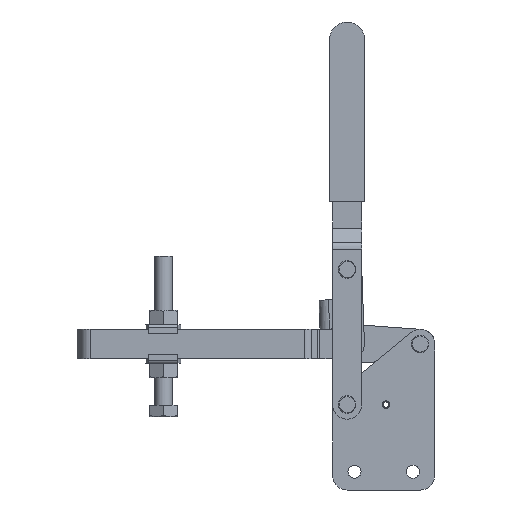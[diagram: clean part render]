
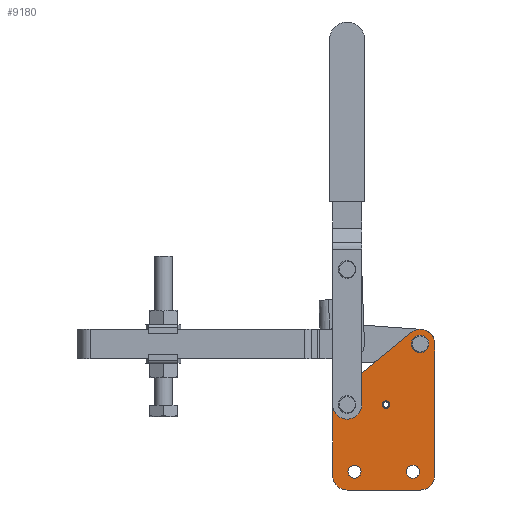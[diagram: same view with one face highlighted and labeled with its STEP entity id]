
A CAD part, front view. The second image highlights one B-rep face of the part: STEP entity #9180.
In plain terms, the highlighted planar face has unit normal (0, -1, 0).
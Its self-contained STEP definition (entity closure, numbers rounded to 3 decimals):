
#9019=CARTESIAN_POINT('Axis2P3D Location',(0.,12.5,0.)) ;
#9024=CARTESIAN_POINT('Line Origine',(-15.,12.5,4.252)) ;
#9028=CARTESIAN_POINT('Cartesian Point',(-15.,12.5,-20.)) ;
#9030=CARTESIAN_POINT('Cartesian Point',(-15.,12.5,28.504)) ;
#9033=CARTESIAN_POINT('Axis2P3D Location',(-5.,12.5,-20.)) ;
#9037=CARTESIAN_POINT('Cartesian Point',(-5.,12.5,-30.)) ;
#9040=CARTESIAN_POINT('Line Origine',(20.,12.5,-30.)) ;
#9044=CARTESIAN_POINT('Cartesian Point',(45.,12.5,-30.)) ;
#9047=CARTESIAN_POINT('Axis2P3D Location',(45.,12.5,-20.)) ;
#9051=CARTESIAN_POINT('Cartesian Point',(55.,12.5,-20.)) ;
#9054=CARTESIAN_POINT('Line Origine',(55.,12.5,25.)) ;
#9058=CARTESIAN_POINT('Cartesian Point',(55.,12.5,70.)) ;
#9061=CARTESIAN_POINT('Axis2P3D Location',(45.,12.5,70.)) ;
#9065=CARTESIAN_POINT('Cartesian Point',(38.614,12.5,77.695)) ;
#9068=CARTESIAN_POINT('Line Origine',(13.614,12.5,56.947)) ;
#9072=CARTESIAN_POINT('Cartesian Point',(-11.386,12.5,36.199)) ;
#9075=CARTESIAN_POINT('Axis2P3D Location',(-5.,12.5,28.504)) ;
#9090=CARTESIAN_POINT('Axis2P3D Location',(-5.,12.5,28.5)) ;
#9094=CARTESIAN_POINT('Cartesian Point',(0.,12.5,28.5)) ;
#9096=CARTESIAN_POINT('Cartesian Point',(-10.,12.5,28.5)) ;
#9099=CARTESIAN_POINT('Axis2P3D Location',(-5.,12.5,28.5)) ;
#9108=CARTESIAN_POINT('Axis2P3D Location',(45.,12.5,70.)) ;
#9112=CARTESIAN_POINT('Cartesian Point',(49.,12.5,70.)) ;
#9114=CARTESIAN_POINT('Cartesian Point',(41.,12.5,70.)) ;
#9117=CARTESIAN_POINT('Axis2P3D Location',(45.,12.5,70.)) ;
#9126=CARTESIAN_POINT('Axis2P3D Location',(21.5,12.5,28.5)) ;
#9130=CARTESIAN_POINT('Cartesian Point',(24.,12.5,28.5)) ;
#9132=CARTESIAN_POINT('Cartesian Point',(19.,12.5,28.5)) ;
#9135=CARTESIAN_POINT('Axis2P3D Location',(21.5,12.5,28.5)) ;
#9144=CARTESIAN_POINT('Axis2P3D Location',(40.,12.5,-17.5)) ;
#9148=CARTESIAN_POINT('Cartesian Point',(44.5,12.5,-17.5)) ;
#9150=CARTESIAN_POINT('Cartesian Point',(35.5,12.5,-17.5)) ;
#9153=CARTESIAN_POINT('Axis2P3D Location',(40.,12.5,-17.5)) ;
#9162=CARTESIAN_POINT('Axis2P3D Location',(0.,12.5,-17.5)) ;
#9166=CARTESIAN_POINT('Cartesian Point',(4.5,12.5,-17.5)) ;
#9168=CARTESIAN_POINT('Cartesian Point',(-4.5,12.5,-17.5)) ;
#9171=CARTESIAN_POINT('Axis2P3D Location',(0.,12.5,-17.5)) ;
#9020=DIRECTION('Axis2P3D Direction',(0.,1.,0.)) ;
#9021=DIRECTION('Axis2P3D XDirection',(1.,0.,0.)) ;
#9025=DIRECTION('Vector Direction',(0.,0.,1.)) ;
#9034=DIRECTION('Axis2P3D Direction',(0.,1.,0.)) ;
#9041=DIRECTION('Vector Direction',(1.,0.,0.)) ;
#9048=DIRECTION('Axis2P3D Direction',(0.,1.,0.)) ;
#9055=DIRECTION('Vector Direction',(0.,0.,1.)) ;
#9062=DIRECTION('Axis2P3D Direction',(0.,1.,0.)) ;
#9069=DIRECTION('Vector Direction',(-0.77,0.,-0.639)) ;
#9076=DIRECTION('Axis2P3D Direction',(0.,1.,0.)) ;
#9091=DIRECTION('Axis2P3D Direction',(0.,1.,0.)) ;
#9100=DIRECTION('Axis2P3D Direction',(0.,1.,0.)) ;
#9109=DIRECTION('Axis2P3D Direction',(0.,1.,0.)) ;
#9118=DIRECTION('Axis2P3D Direction',(0.,1.,0.)) ;
#9127=DIRECTION('Axis2P3D Direction',(0.,1.,0.)) ;
#9136=DIRECTION('Axis2P3D Direction',(0.,1.,0.)) ;
#9145=DIRECTION('Axis2P3D Direction',(0.,1.,0.)) ;
#9154=DIRECTION('Axis2P3D Direction',(0.,1.,0.)) ;
#9163=DIRECTION('Axis2P3D Direction',(0.,1.,0.)) ;
#9172=DIRECTION('Axis2P3D Direction',(0.,1.,0.)) ;
#9022=AXIS2_PLACEMENT_3D('Plane Axis2P3D',#9019,#9020,#9021) ;
#9035=AXIS2_PLACEMENT_3D('Circle Axis2P3D',#9033,#9034,$) ;
#9049=AXIS2_PLACEMENT_3D('Circle Axis2P3D',#9047,#9048,$) ;
#9063=AXIS2_PLACEMENT_3D('Circle Axis2P3D',#9061,#9062,$) ;
#9077=AXIS2_PLACEMENT_3D('Circle Axis2P3D',#9075,#9076,$) ;
#9092=AXIS2_PLACEMENT_3D('Circle Axis2P3D',#9090,#9091,$) ;
#9101=AXIS2_PLACEMENT_3D('Circle Axis2P3D',#9099,#9100,$) ;
#9110=AXIS2_PLACEMENT_3D('Circle Axis2P3D',#9108,#9109,$) ;
#9119=AXIS2_PLACEMENT_3D('Circle Axis2P3D',#9117,#9118,$) ;
#9128=AXIS2_PLACEMENT_3D('Circle Axis2P3D',#9126,#9127,$) ;
#9137=AXIS2_PLACEMENT_3D('Circle Axis2P3D',#9135,#9136,$) ;
#9146=AXIS2_PLACEMENT_3D('Circle Axis2P3D',#9144,#9145,$) ;
#9155=AXIS2_PLACEMENT_3D('Circle Axis2P3D',#9153,#9154,$) ;
#9164=AXIS2_PLACEMENT_3D('Circle Axis2P3D',#9162,#9163,$) ;
#9173=AXIS2_PLACEMENT_3D('Circle Axis2P3D',#9171,#9172,$) ;
#9081=ORIENTED_EDGE('Oriented Edge',*,*,#9032,.F.) ;
#9082=ORIENTED_EDGE('Oriented Edge',*,*,#9039,.T.) ;
#9083=ORIENTED_EDGE('Oriented Edge',*,*,#9046,.T.) ;
#9084=ORIENTED_EDGE('Oriented Edge',*,*,#9053,.T.) ;
#9085=ORIENTED_EDGE('Oriented Edge',*,*,#9060,.T.) ;
#9086=ORIENTED_EDGE('Oriented Edge',*,*,#9067,.T.) ;
#9087=ORIENTED_EDGE('Oriented Edge',*,*,#9074,.T.) ;
#9088=ORIENTED_EDGE('Oriented Edge',*,*,#9079,.T.) ;
#9105=ORIENTED_EDGE('Oriented Edge',*,*,#9098,.F.) ;
#9106=ORIENTED_EDGE('Oriented Edge',*,*,#9103,.F.) ;
#9123=ORIENTED_EDGE('Oriented Edge',*,*,#9116,.F.) ;
#9124=ORIENTED_EDGE('Oriented Edge',*,*,#9121,.F.) ;
#9141=ORIENTED_EDGE('Oriented Edge',*,*,#9134,.F.) ;
#9142=ORIENTED_EDGE('Oriented Edge',*,*,#9139,.F.) ;
#9159=ORIENTED_EDGE('Oriented Edge',*,*,#9152,.F.) ;
#9160=ORIENTED_EDGE('Oriented Edge',*,*,#9157,.F.) ;
#9177=ORIENTED_EDGE('Oriented Edge',*,*,#9170,.F.) ;
#9178=ORIENTED_EDGE('Oriented Edge',*,*,#9175,.F.) ;
#9107=FACE_BOUND('Face Bound',#9104,.T.) ;
#9125=FACE_BOUND('Face Bound',#9122,.T.) ;
#9143=FACE_BOUND('Face Bound',#9140,.T.) ;
#9161=FACE_BOUND('Face Bound',#9158,.T.) ;
#9179=FACE_BOUND('Face Bound',#9176,.T.) ;
#9026=VECTOR('Line Direction',#9025,1.) ;
#9042=VECTOR('Line Direction',#9041,1.) ;
#9056=VECTOR('Line Direction',#9055,1.) ;
#9070=VECTOR('Line Direction',#9069,1.) ;
#9180=ADVANCED_FACE('',(#9089,#9107,#9125,#9143,#9161,#9179),#9023,.F.) ;
#9036=CIRCLE('generated circle',#9035,10.) ;
#9050=CIRCLE('generated circle',#9049,10.) ;
#9064=CIRCLE('generated circle',#9063,10.) ;
#9078=CIRCLE('generated circle',#9077,10.) ;
#9093=CIRCLE('generated circle',#9092,5.) ;
#9102=CIRCLE('generated circle',#9101,5.) ;
#9111=CIRCLE('generated circle',#9110,4.) ;
#9120=CIRCLE('generated circle',#9119,4.) ;
#9129=CIRCLE('generated circle',#9128,2.5) ;
#9138=CIRCLE('generated circle',#9137,2.5) ;
#9147=CIRCLE('generated circle',#9146,4.5) ;
#9156=CIRCLE('generated circle',#9155,4.5) ;
#9165=CIRCLE('generated circle',#9164,4.5) ;
#9174=CIRCLE('generated circle',#9173,4.5) ;
#9032=EDGE_CURVE('',#9029,#9031,#9027,.T.) ;
#9039=EDGE_CURVE('',#9029,#9038,#9036,.F.) ;
#9046=EDGE_CURVE('',#9038,#9045,#9043,.T.) ;
#9053=EDGE_CURVE('',#9045,#9052,#9050,.F.) ;
#9060=EDGE_CURVE('',#9052,#9059,#9057,.T.) ;
#9067=EDGE_CURVE('',#9059,#9066,#9064,.F.) ;
#9074=EDGE_CURVE('',#9066,#9073,#9071,.T.) ;
#9079=EDGE_CURVE('',#9073,#9031,#9078,.F.) ;
#9098=EDGE_CURVE('',#9095,#9097,#9093,.F.) ;
#9103=EDGE_CURVE('',#9097,#9095,#9102,.F.) ;
#9116=EDGE_CURVE('',#9113,#9115,#9111,.F.) ;
#9121=EDGE_CURVE('',#9115,#9113,#9120,.F.) ;
#9134=EDGE_CURVE('',#9131,#9133,#9129,.F.) ;
#9139=EDGE_CURVE('',#9133,#9131,#9138,.F.) ;
#9152=EDGE_CURVE('',#9149,#9151,#9147,.F.) ;
#9157=EDGE_CURVE('',#9151,#9149,#9156,.F.) ;
#9170=EDGE_CURVE('',#9167,#9169,#9165,.F.) ;
#9175=EDGE_CURVE('',#9169,#9167,#9174,.F.) ;
#9080=EDGE_LOOP('Oriented Loop',(#9081,#9082,#9083,#9084,#9085,#9086,#9087,#9088)) ;
#9104=EDGE_LOOP('Oriented Loop',(#9105,#9106)) ;
#9122=EDGE_LOOP('Oriented Loop',(#9123,#9124)) ;
#9140=EDGE_LOOP('Oriented Loop',(#9141,#9142)) ;
#9158=EDGE_LOOP('Oriented Loop',(#9159,#9160)) ;
#9176=EDGE_LOOP('Oriented Loop',(#9177,#9178)) ;
#9089=FACE_OUTER_BOUND('Face Bound',#9080,.T.) ;
#9027=LINE('Line',#9024,#9026) ;
#9043=LINE('Line',#9040,#9042) ;
#9057=LINE('Line',#9054,#9056) ;
#9071=LINE('Line',#9068,#9070) ;
#9023=PLANE('Plane',#9022) ;
#9029=VERTEX_POINT('Vertex Point',#9028) ;
#9031=VERTEX_POINT('Vertex Point',#9030) ;
#9038=VERTEX_POINT('Vertex Point',#9037) ;
#9045=VERTEX_POINT('Vertex Point',#9044) ;
#9052=VERTEX_POINT('Vertex Point',#9051) ;
#9059=VERTEX_POINT('Vertex Point',#9058) ;
#9066=VERTEX_POINT('Vertex Point',#9065) ;
#9073=VERTEX_POINT('Vertex Point',#9072) ;
#9095=VERTEX_POINT('Vertex Point',#9094) ;
#9097=VERTEX_POINT('Vertex Point',#9096) ;
#9113=VERTEX_POINT('Vertex Point',#9112) ;
#9115=VERTEX_POINT('Vertex Point',#9114) ;
#9131=VERTEX_POINT('Vertex Point',#9130) ;
#9133=VERTEX_POINT('Vertex Point',#9132) ;
#9149=VERTEX_POINT('Vertex Point',#9148) ;
#9151=VERTEX_POINT('Vertex Point',#9150) ;
#9167=VERTEX_POINT('Vertex Point',#9166) ;
#9169=VERTEX_POINT('Vertex Point',#9168) ;
